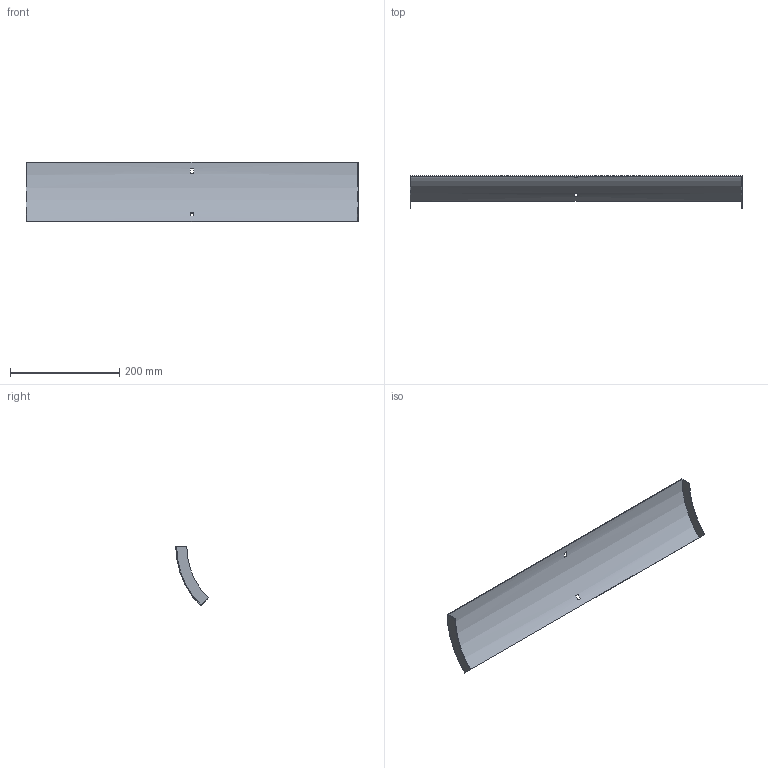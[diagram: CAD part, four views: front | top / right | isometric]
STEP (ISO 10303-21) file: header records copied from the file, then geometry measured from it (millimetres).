
FILE_DESCRIPTION (( 'STEP AP214' ), '1' );
FILE_NAME ('34N1B600.step', '2025-02-21T09:15:09', ( '' ), ( '' ), 'SwSTEP 2.0', 'SolidWorks 2023', '' );
FILE_SCHEMA (( 'AUTOMOTIVE_DESIGN' ));
Length unit declared in the file: millimetre
Products named in the file (1): 34N1B600
Bounding box: 607 x 59.1 x 108.54 mm (x, y, z)
Volume: 115278.1 mm3; surface area: 156046.1 mm2
Topology: 1 solids, 1 shells, 18 faces, 48 edges, 32 vertices
Faces by surface type: plane 14, cylinder 4
Entity records: 599 total; most frequent: DIRECTION 102, CARTESIAN_POINT 99, ORIENTED_EDGE 96, EDGE_CURVE 48, AXIS2_PLACEMENT_3D 35, LINE 32, VERTEX_POINT 32, VECTOR 32
